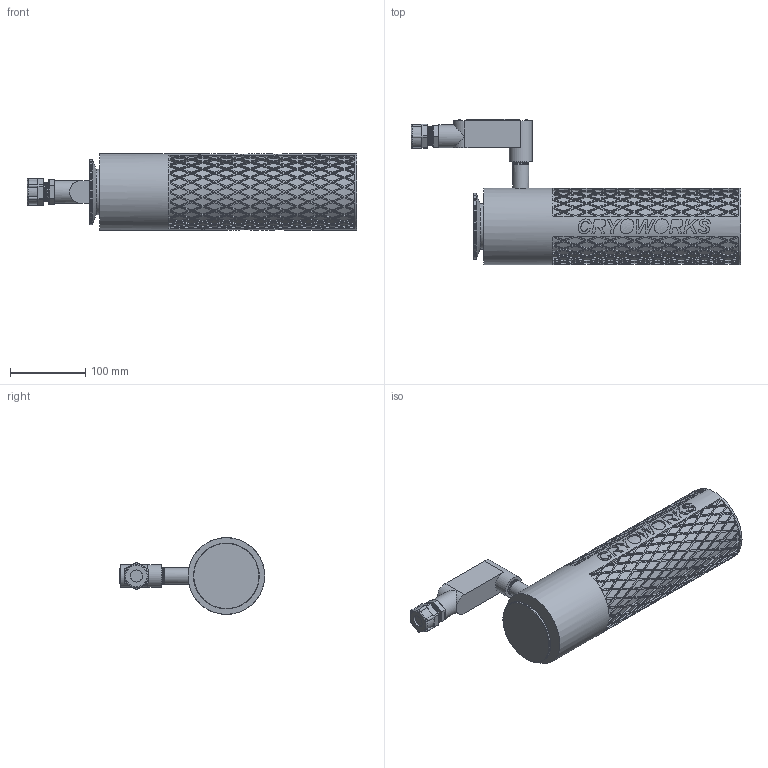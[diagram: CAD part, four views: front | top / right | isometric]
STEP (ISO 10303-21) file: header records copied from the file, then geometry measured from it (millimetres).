
FILE_DESCRIPTION (( 'STEP AP203' ), '1' );
FILE_NAME ('CA00570-TF & CA00575-TF.step', '2025-12-17T20:21:33', ( '' ), ( '' ), 'SwSTEP 2.0', 'SolidWorks 2023', '' );
FILE_SCHEMA (( 'CONFIG_CONTROL_DESIGN' ));
Products named in the file (1): CA00570-TF & CA00575-TF
Bounding box: 437.41 x 192.66 x 101.6 mm (x, y, z)
Volume: 2887818.8 mm3; surface area: 204615.9 mm2
Topology: 1 solids, 1 shells, 2088 faces, 5100 edges, 3382 vertices
Faces by surface type: plane 1541, cylinder 418, bspline 108, cone 12, torus 5, sphere 4
Full cylindrical faces by diameter (mm): 16.002 x1, 21.336 x3, 23.043 x3, 30.226 x2, 60.325 x1, 87.3 x1, 101.6 x1
Entity records: 67399 total; most frequent: CARTESIAN_POINT 27199, ORIENTED_EDGE 10028, DIRECTION 6232, EDGE_CURVE 5014, VERTEX_POINT 3339, EDGE_LOOP 2487, AXIS2_PLACEMENT_3D 2167, FACE_OUTER_BOUND 2098
